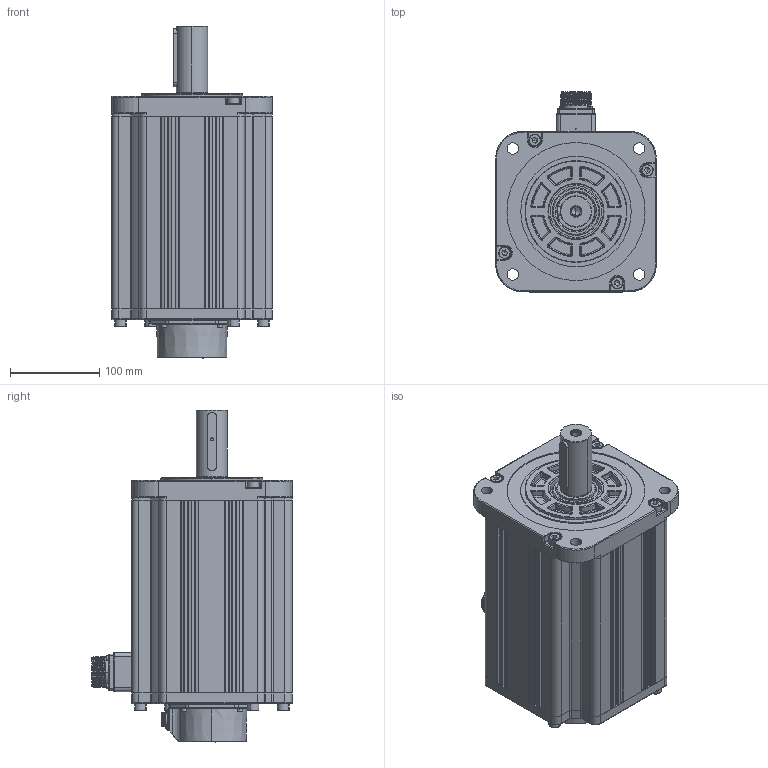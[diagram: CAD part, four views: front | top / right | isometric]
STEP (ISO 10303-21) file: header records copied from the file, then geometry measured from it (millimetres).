
FILE_DESCRIPTION (( 'STEP AP214' ), '1' );
FILE_NAME ('7R515.STEP', '2024-10-24T03:42:02', ( 'IT' ), ( '' ), 'SwSTEP 2.0', 'SolidWorks 2022', '' );
FILE_SCHEMA (( 'AUTOMOTIVE_DESIGN' ));
Length unit declared in the file: millimetre
Products named in the file (16): 130陔俋夤晤鎢ん欶240305; 7R515; 121; 180#綴傷裔; 零件1^180#新电机-无刹车 201021; 180#陔隅赽201019; 坋趼攫芛蹟佪 M2X8-8  H type-N; 埴芛囀鞠褒 ISO 4762 M8 x 30 --- 30N; 135.5 (2); 埴芛囀鞠褒 ISO 4762 M3 x 30 --- 18N; SC180瑤脣釱1015; 埴芛囀鞠褒 ISO 4762 M3 x 10 --- 10N; SC蚐猾 D00B999YF8-TC 44-62-10; SC180ヶ傷裔1009; 1105SC瑤諾脣芛 16M-9H; SCCMS3102A22-22P-Z
Assembly tree (31 placements, depth 3):
  7R515
    180#陔隅赽201019
      SC180ヶ傷裔1009
      SCCMS3102A22-22P-Z
      SC180瑤脣釱1015
      135.5 (2)
    SC蚐猾 D00B999YF8-TC 44-62-10
    埴芛囀鞠褒 ISO 4762 M8 x 30 --- 30N  x8
    零件1^180#新电机-无刹车 201021
    埴芛囀鞠褒 ISO 4762 M3 x 10 --- 10N  x4
    坋趼攫芛蹟佪 M2X8-8  H type-N  x4
    埴芛囀鞠褒 ISO 4762 M3 x 30 --- 18N  x4
    180#綴傷裔
    121
    1105SC瑤諾脣芛 16M-9H
    130陔俋夤晤鎢ん欶240305
Bounding box: 180 x 224.6 x 372.5 mm (x, y, z)
Volume: 2579854.8 mm3; surface area: 641857.9 mm2
Topology: 30 solids, 30 shells, 2662 faces, 6482 edges, 3841 vertices
Faces by surface type: cylinder 977, plane 749, bspline 334, torus 300, cone 197, sphere 105
Entity records: 103801 total; most frequent: CARTESIAN_POINT 32289, DIRECTION 10884, ORIENTED_EDGE 10712, EDGE_CURVE 5356, AXIS2_PLACEMENT_3D 4452, VERTEX_POINT 3250, CIRCLE 2457, EDGE_LOOP 2440
